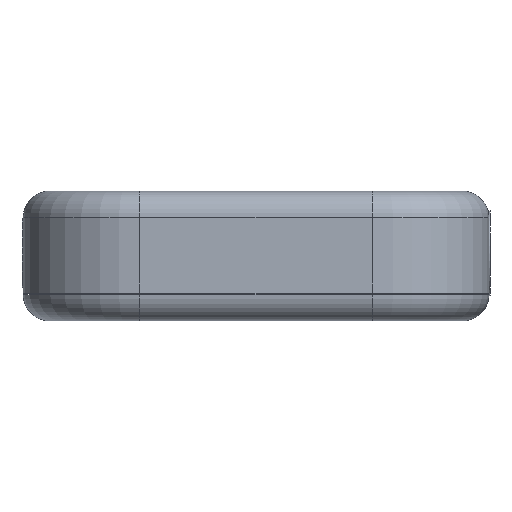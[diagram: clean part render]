
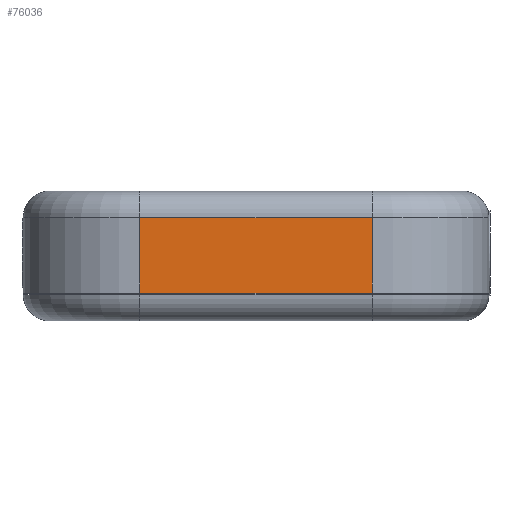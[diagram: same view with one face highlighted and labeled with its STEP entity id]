
A CAD part, front view. The second image highlights one B-rep face of the part: STEP entity #76036.
In plain terms, the highlighted planar face has unit normal (0, -1, 0).
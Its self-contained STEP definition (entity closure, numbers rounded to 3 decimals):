
#73452 = CYLINDRICAL_SURFACE('',#73453,5.);
#73453 = AXIS2_PLACEMENT_3D('',#73454,#73455,#73456);
#73454 = CARTESIAN_POINT('',(22.,-63.,6.75));
#73455 = DIRECTION('',(-1.,-0.,-0.));
#73456 = DIRECTION('',(0.,-1.,0.));
#74173 = VERTEX_POINT('',#74174);
#74174 = CARTESIAN_POINT('',(-22.,-68.,6.75));
#74189 = CYLINDRICAL_SURFACE('',#74190,22.);
#74190 = AXIS2_PLACEMENT_3D('',#74191,#74192,#74193);
#74191 = CARTESIAN_POINT('',(-22.,-46.,-12.75));
#74192 = DIRECTION('',(0.,0.,1.));
#74193 = DIRECTION('',(-1.,-0.,0.));
#74227 = VERTEX_POINT('',#74228);
#74228 = CARTESIAN_POINT('',(22.,-68.,6.75));
#74252 = EDGE_CURVE('',#74227,#74173,#74253,.T.);
#74253 = SURFACE_CURVE('',#74254,(#74258,#74265),.PCURVE_S1.);
#74254 = LINE('',#74255,#74256);
#74255 = CARTESIAN_POINT('',(22.,-68.,6.75));
#74256 = VECTOR('',#74257,1.);
#74257 = DIRECTION('',(-1.,-0.,-0.));
#74258 = PCURVE('',#73452,#74259);
#74259 = DEFINITIONAL_REPRESENTATION('',(#74260),#74264);
#74260 = LINE('',#74261,#74262);
#74261 = CARTESIAN_POINT('',(0.,0.));
#74262 = VECTOR('',#74263,1.);
#74263 = DIRECTION('',(0.,1.));
#74264 = ( GEOMETRIC_REPRESENTATION_CONTEXT(2) 
PARAMETRIC_REPRESENTATION_CONTEXT() REPRESENTATION_CONTEXT('2D SPACE',''
  ) );
#74265 = PCURVE('',#74266,#74271);
#74266 = PLANE('',#74267);
#74267 = AXIS2_PLACEMENT_3D('',#74268,#74269,#74270);
#74268 = CARTESIAN_POINT('',(-44.,-68.,-12.75));
#74269 = DIRECTION('',(0.,1.,0.));
#74270 = DIRECTION('',(0.,-0.,1.));
#74271 = DEFINITIONAL_REPRESENTATION('',(#74272),#74276);
#74272 = LINE('',#74273,#74274);
#74273 = CARTESIAN_POINT('',(19.5,66.));
#74274 = VECTOR('',#74275,1.);
#74275 = DIRECTION('',(0.,-1.));
#74276 = ( GEOMETRIC_REPRESENTATION_CONTEXT(2) 
PARAMETRIC_REPRESENTATION_CONTEXT() REPRESENTATION_CONTEXT('2D SPACE',''
  ) );
#74300 = CYLINDRICAL_SURFACE('',#74301,22.);
#74301 = AXIS2_PLACEMENT_3D('',#74302,#74303,#74304);
#74302 = CARTESIAN_POINT('',(22.,-46.,-12.75));
#74303 = DIRECTION('',(0.,0.,1.));
#74304 = DIRECTION('',(1.,0.,-0.));
#75524 = PLANE('',#75525);
#75525 = AXIS2_PLACEMENT_3D('',#75526,#75527,#75528);
#75526 = CARTESIAN_POINT('',(-90.,-110.,-7.5));
#75527 = DIRECTION('',(0.,0.,1.));
#75528 = DIRECTION('',(1.,0.,-0.));
#75992 = VERTEX_POINT('',#75993);
#75993 = CARTESIAN_POINT('',(-22.,-68.,-7.5));
#76015 = EDGE_CURVE('',#75992,#74173,#76016,.T.);
#76016 = SURFACE_CURVE('',#76017,(#76021,#76028),.PCURVE_S1.);
#76017 = LINE('',#76018,#76019);
#76018 = CARTESIAN_POINT('',(-22.,-68.,-12.75));
#76019 = VECTOR('',#76020,1.);
#76020 = DIRECTION('',(0.,0.,1.));
#76021 = PCURVE('',#74189,#76022);
#76022 = DEFINITIONAL_REPRESENTATION('',(#76023),#76027);
#76023 = LINE('',#76024,#76025);
#76024 = CARTESIAN_POINT('',(1.571,0.));
#76025 = VECTOR('',#76026,1.);
#76026 = DIRECTION('',(0.,1.));
#76027 = ( GEOMETRIC_REPRESENTATION_CONTEXT(2) 
PARAMETRIC_REPRESENTATION_CONTEXT() REPRESENTATION_CONTEXT('2D SPACE',''
  ) );
#76028 = PCURVE('',#74266,#76029);
#76029 = DEFINITIONAL_REPRESENTATION('',(#76030),#76034);
#76030 = LINE('',#76031,#76032);
#76031 = CARTESIAN_POINT('',(0.,22.));
#76032 = VECTOR('',#76033,1.);
#76033 = DIRECTION('',(1.,0.));
#76034 = ( GEOMETRIC_REPRESENTATION_CONTEXT(2) 
PARAMETRIC_REPRESENTATION_CONTEXT() REPRESENTATION_CONTEXT('2D SPACE',''
  ) );
#76036 = ADVANCED_FACE('',(#76037),#74266,.F.);
#76037 = FACE_BOUND('',#76038,.F.);
#76038 = EDGE_LOOP('',(#76039,#76062,#76063,#76064));
#76039 = ORIENTED_EDGE('',*,*,#76040,.F.);
#76040 = EDGE_CURVE('',#75992,#76041,#76043,.T.);
#76041 = VERTEX_POINT('',#76042);
#76042 = CARTESIAN_POINT('',(22.,-68.,-7.5));
#76043 = SURFACE_CURVE('',#76044,(#76048,#76055),.PCURVE_S1.);
#76044 = LINE('',#76045,#76046);
#76045 = CARTESIAN_POINT('',(-67.,-68.,-7.5));
#76046 = VECTOR('',#76047,1.);
#76047 = DIRECTION('',(1.,0.,0.));
#76048 = PCURVE('',#74266,#76049);
#76049 = DEFINITIONAL_REPRESENTATION('',(#76050),#76054);
#76050 = LINE('',#76051,#76052);
#76051 = CARTESIAN_POINT('',(5.25,-23.));
#76052 = VECTOR('',#76053,1.);
#76053 = DIRECTION('',(0.,1.));
#76054 = ( GEOMETRIC_REPRESENTATION_CONTEXT(2) 
PARAMETRIC_REPRESENTATION_CONTEXT() REPRESENTATION_CONTEXT('2D SPACE',''
  ) );
#76055 = PCURVE('',#75524,#76056);
#76056 = DEFINITIONAL_REPRESENTATION('',(#76057),#76061);
#76057 = LINE('',#76058,#76059);
#76058 = CARTESIAN_POINT('',(23.,42.));
#76059 = VECTOR('',#76060,1.);
#76060 = DIRECTION('',(1.,0.));
#76061 = ( GEOMETRIC_REPRESENTATION_CONTEXT(2) 
PARAMETRIC_REPRESENTATION_CONTEXT() REPRESENTATION_CONTEXT('2D SPACE',''
  ) );
#76062 = ORIENTED_EDGE('',*,*,#76015,.T.);
#76063 = ORIENTED_EDGE('',*,*,#74252,.F.);
#76064 = ORIENTED_EDGE('',*,*,#76065,.F.);
#76065 = EDGE_CURVE('',#76041,#74227,#76066,.T.);
#76066 = SURFACE_CURVE('',#76067,(#76071,#76078),.PCURVE_S1.);
#76067 = LINE('',#76068,#76069);
#76068 = CARTESIAN_POINT('',(22.,-68.,-12.75));
#76069 = VECTOR('',#76070,1.);
#76070 = DIRECTION('',(0.,0.,1.));
#76071 = PCURVE('',#74266,#76072);
#76072 = DEFINITIONAL_REPRESENTATION('',(#76073),#76077);
#76073 = LINE('',#76074,#76075);
#76074 = CARTESIAN_POINT('',(0.,66.));
#76075 = VECTOR('',#76076,1.);
#76076 = DIRECTION('',(1.,0.));
#76077 = ( GEOMETRIC_REPRESENTATION_CONTEXT(2) 
PARAMETRIC_REPRESENTATION_CONTEXT() REPRESENTATION_CONTEXT('2D SPACE',''
  ) );
#76078 = PCURVE('',#74300,#76079);
#76079 = DEFINITIONAL_REPRESENTATION('',(#76080),#76084);
#76080 = LINE('',#76081,#76082);
#76081 = CARTESIAN_POINT('',(4.712,0.));
#76082 = VECTOR('',#76083,1.);
#76083 = DIRECTION('',(-0.,1.));
#76084 = ( GEOMETRIC_REPRESENTATION_CONTEXT(2) 
PARAMETRIC_REPRESENTATION_CONTEXT() REPRESENTATION_CONTEXT('2D SPACE',''
  ) );
